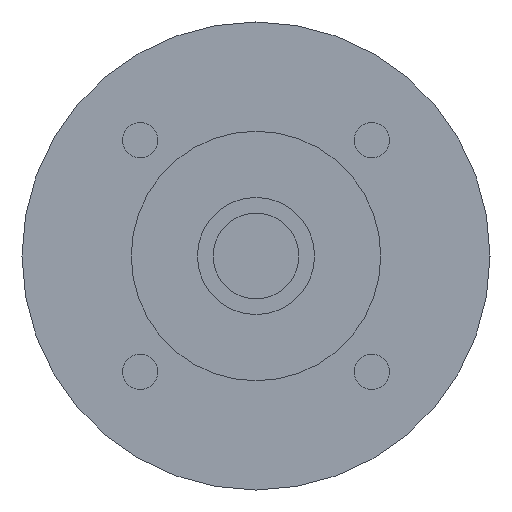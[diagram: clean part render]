
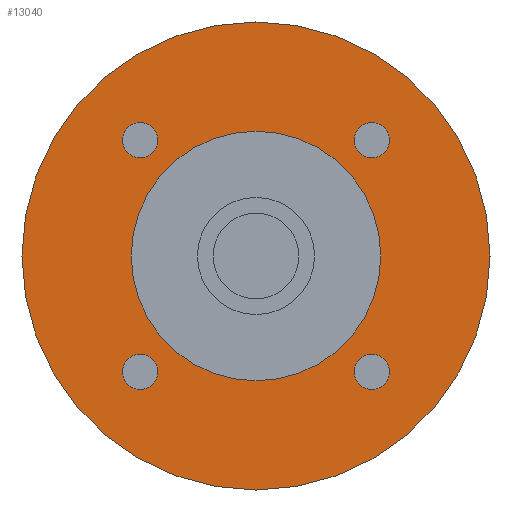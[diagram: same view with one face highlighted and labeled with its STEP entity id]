
A CAD part, left-side view. The second image highlights one B-rep face of the part: STEP entity #13040.
In plain terms, the highlighted planar face has unit normal (-1, 0, 0) as drawn and (0, 0, -1) by its records, which use the part's own axes.
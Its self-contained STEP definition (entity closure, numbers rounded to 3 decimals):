
#8680=CARTESIAN_POINT('',(-30.,0.,-35.));
#8690=VERTEX_POINT('',#8680);
#8910=CARTESIAN_POINT('',(30.,0.,-35.));
#8920=VERTEX_POINT('',#8910);
#8950=CARTESIAN_POINT('',(0.,0.,-35.
));
#8960=DIRECTION('',(0.,0.,1.));
#8970=DIRECTION('',(1.,0.,0.));
#8980=AXIS2_PLACEMENT_3D('',#8950,#8960,#8970);
#8990=CIRCLE('',#8980,30.);
#9000=CARTESIAN_POINT('',(0.,-30.,-35.));
#9010=VERTEX_POINT('',#9000);
#9020=EDGE_CURVE('',#9010,#8920,#8990,.T.);
#9040=EDGE_CURVE('',#8690,#9010,#8990,.T.);
#12010=CARTESIAN_POINT('',(-14.849,-12.599,-35.));
#12020=VERTEX_POINT('',#12010);
#12050=CARTESIAN_POINT('',(-14.849,-14.849,-35.));
#12060=DIRECTION('',(0.,0.,-1.));
#12070=DIRECTION('',(0.,-1.,0.));
#12080=AXIS2_PLACEMENT_3D('',#12050,#12060,#12070);
#12090=CIRCLE('',#12080,2.25);
#12100=CARTESIAN_POINT('',(-14.849,-17.099,-35.));
#12110=VERTEX_POINT('',#12100);
#12120=EDGE_CURVE('',#12110,#12020,#12090,.T.);
#12240=CARTESIAN_POINT('',(0.,0.,
-35.));
#12250=DIRECTION('',(0.,0.,-1.));
#12260=DIRECTION('',(1.,0.,0.));
#12270=AXIS2_PLACEMENT_3D('',#12240,#12250,#12260);
#12280=PLANE('',#12270);
#12290=CARTESIAN_POINT('',(14.849,14.849,-35.));
#12300=DIRECTION('',(0.,0.,-1.));
#12310=DIRECTION('',(0.,1.,0.));
#12320=AXIS2_PLACEMENT_3D('',#12290,#12300,#12310);
#12330=CIRCLE('',#12320,2.25);
#12340=CARTESIAN_POINT('',(14.849,17.099,-35.));
#12350=VERTEX_POINT('',#12340);
#12360=CARTESIAN_POINT('',(14.849,12.599,-35.));
#12370=VERTEX_POINT('',#12360);
#12380=EDGE_CURVE('',#12350,#12370,#12330,.T.);
#12390=ORIENTED_EDGE('',*,*,#12380,.F.);
#12400=EDGE_CURVE('',#12370,#12350,#12330,.T.);
#12410=ORIENTED_EDGE('',*,*,#12400,.F.);
#12420=EDGE_LOOP('',(#12410,#12390));
#12430=FACE_BOUND('',#12420,.T.);
#12440=CARTESIAN_POINT('',(-14.849,14.849,-35.));
#12450=DIRECTION('',(0.,0.,-1.));
#12460=DIRECTION('',(-1.,0.,0.));
#12470=AXIS2_PLACEMENT_3D('',#12440,#12450,#12460);
#12480=CIRCLE('',#12470,2.25);
#12490=CARTESIAN_POINT('',(-17.099,14.849,-35.));
#12500=VERTEX_POINT('',#12490);
#12510=CARTESIAN_POINT('',(-12.599,14.849,-35.));
#12520=VERTEX_POINT('',#12510);
#12530=EDGE_CURVE('',#12500,#12520,#12480,.T.);
#12540=ORIENTED_EDGE('',*,*,#12530,.F.);
#12550=EDGE_CURVE('',#12520,#12500,#12480,.T.);
#12560=ORIENTED_EDGE('',*,*,#12550,.F.);
#12570=EDGE_LOOP('',(#12560,#12540));
#12580=FACE_BOUND('',#12570,.T.);
#12590=ORIENTED_EDGE('',*,*,#12120,.F.);
#12600=EDGE_CURVE('',#12020,#12110,#12090,.T.);
#12610=ORIENTED_EDGE('',*,*,#12600,.F.);
#12620=EDGE_LOOP('',(#12610,#12590));
#12630=FACE_BOUND('',#12620,.T.);
#12640=CARTESIAN_POINT('',(0.,0.,
-35.));
#12650=DIRECTION('',(0.,0.,1.));
#12660=DIRECTION('',(0.,1.,0.));
#12670=AXIS2_PLACEMENT_3D('',#12640,#12650,#12660);
#12680=CIRCLE('',#12670,16.);
#12690=CARTESIAN_POINT('',(-16.,0.,-35.));
#12700=VERTEX_POINT('',#12690);
#12710=CARTESIAN_POINT('',(16.,0.,-35.));
#12720=VERTEX_POINT('',#12710);
#12730=EDGE_CURVE('',#12700,#12720,#12680,.T.);
#12740=ORIENTED_EDGE('',*,*,#12730,.T.);
#12750=CARTESIAN_POINT('',(0.,16.,-35.));
#12760=VERTEX_POINT('',#12750);
#12770=EDGE_CURVE('',#12760,#12700,#12680,.T.);
#12780=ORIENTED_EDGE('',*,*,#12770,.T.);
#12790=EDGE_CURVE('',#12720,#12760,#12680,.T.);
#12800=ORIENTED_EDGE('',*,*,#12790,.T.);
#12810=EDGE_LOOP('',(#12800,#12780,#12740));
#12820=FACE_BOUND('',#12810,.T.);
#12830=CARTESIAN_POINT('',(14.849,-14.849,-35.));
#12840=DIRECTION('',(0.,0.,-1.));
#12850=DIRECTION('',(1.,0.,0.));
#12860=AXIS2_PLACEMENT_3D('',#12830,#12840,#12850);
#12870=CIRCLE('',#12860,2.25);
#12880=CARTESIAN_POINT('',(17.099,-14.849,-35.));
#12890=VERTEX_POINT('',#12880);
#12900=CARTESIAN_POINT('',(12.599,-14.849,-35.));
#12910=VERTEX_POINT('',#12900);
#12920=EDGE_CURVE('',#12890,#12910,#12870,.T.);
#12930=ORIENTED_EDGE('',*,*,#12920,.F.);
#12940=EDGE_CURVE('',#12910,#12890,#12870,.T.);
#12950=ORIENTED_EDGE('',*,*,#12940,.F.);
#12960=EDGE_LOOP('',(#12950,#12930));
#12970=FACE_BOUND('',#12960,.T.);
#12980=ORIENTED_EDGE('',*,*,#9020,.F.);
#12990=EDGE_CURVE('',#8920,#8690,#8990,.T.);
#13000=ORIENTED_EDGE('',*,*,#12990,.F.);
#13010=ORIENTED_EDGE('',*,*,#9040,.F.);
#13020=EDGE_LOOP('',(#13010,#13000,#12980));
#13030=FACE_OUTER_BOUND('',#13020,.T.);
#13040=ADVANCED_FACE('',(#12430,#12580,#12630,#12820,#12970,#13030),
#12280,.T.);
